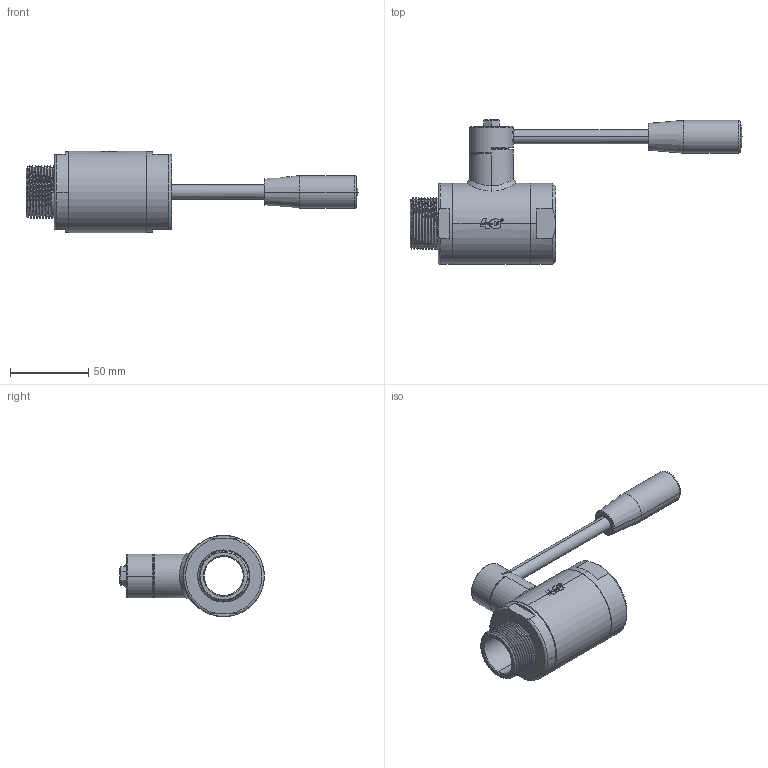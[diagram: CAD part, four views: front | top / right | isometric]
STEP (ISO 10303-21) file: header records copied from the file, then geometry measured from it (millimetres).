
FILE_DESCRIPTION((''),'2;1');
FILE_NAME('10010962610_SW0002','2025-04-29T17:12:56',('tecnico2'),('CDM Tecnoconsulting'),'CREO PARAMETRIC BY PTC INC, 2024063','CREO PARAMETRIC BY PTC INC, 2024063','');
FILE_SCHEMA(('CONFIG_CONTROL_DESIGN','SHAPE_APPEARANCE_LAYERS_GROUPS'));
Products named in the file (1): 10010962610_SW0002
Bounding box: 212 x 92.5 x 52 mm (x, y, z)
Volume: 156667.9 mm3; surface area: 59733.5 mm2
Topology: 1 solids, 1 shells, 905 faces, 2482 edges, 1596 vertices
Faces by surface type: plane 383, cylinder 195, extrusion 111, cone 101, bspline 87, torus 22, sphere 6
Entity records: 80727 total; most frequent: CARTESIAN_POINT 47495, ORIENTED_EDGE 4932, DIRECTION 3697, PRESENTATION_STYLE_ASSIGNMENT 3115, STYLED_ITEM 2578, CURVE_STYLE 2577, EDGE_CURVE 2466, VERTEX_POINT 1596
